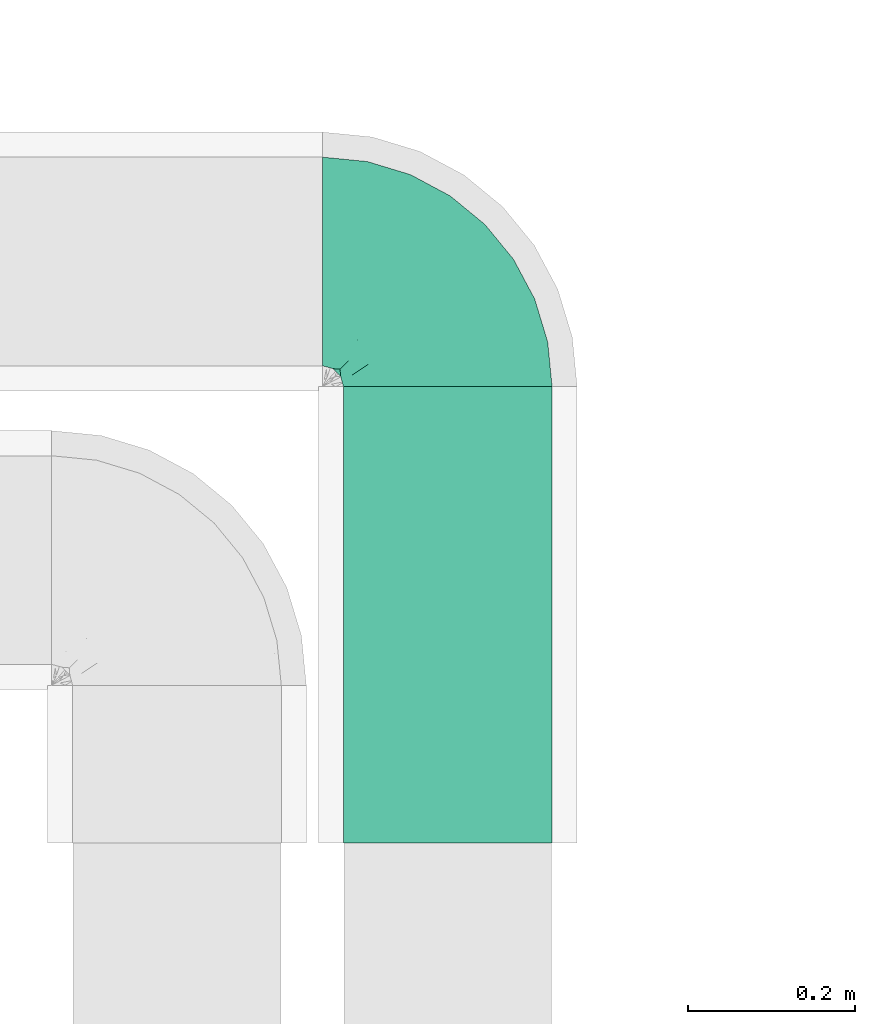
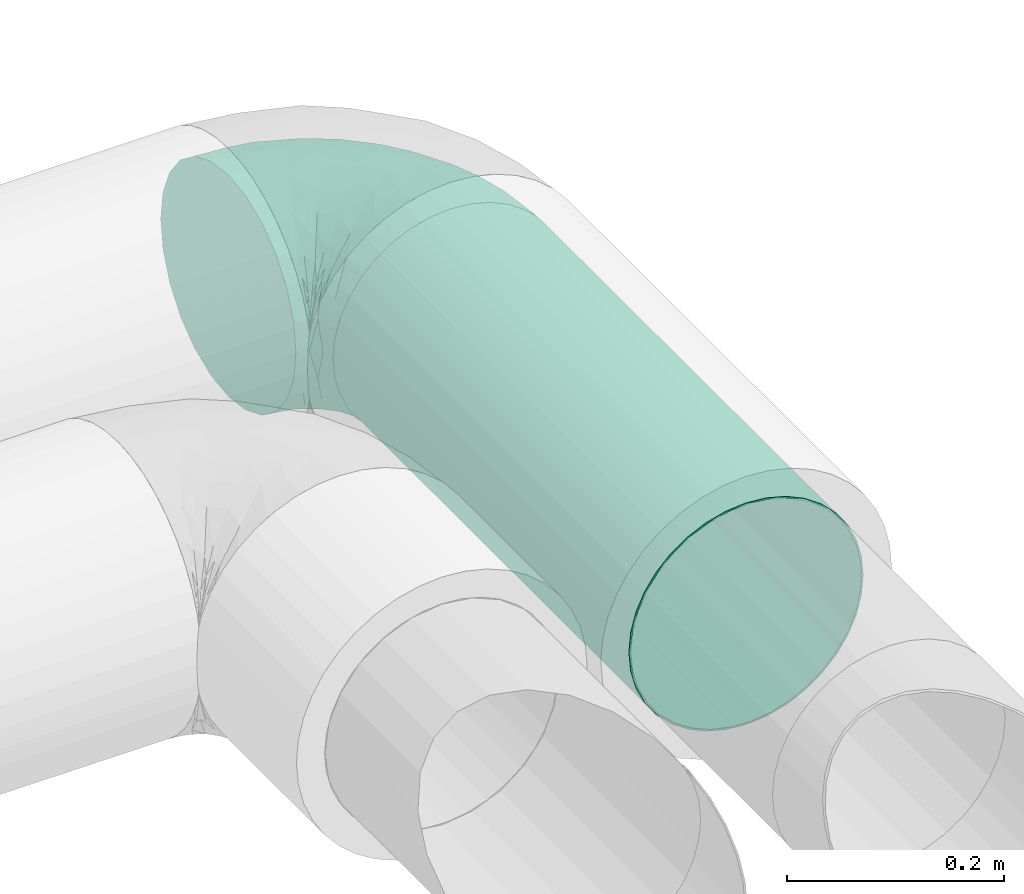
# One storey, part 13 of 36: 1 flow fitting, 1 flow segment.
"""IFC2X3 building model written with IfcOpenShell, lengths in millimetres."""

from ifc_helpers import new_model, entity, si_unit, converted_unit, derived_unit, direction, frame, origin_with_axes, origin_2d_with_axis, place, context, subcontext, project, spatial, hollow_circle, extrude, open_shell, surface_model, source, transform, mapped, type_object, element, save


model = new_model("IFC2X3")

# Units and contexts
model_context = context("Model", 3, precision=0.01, world=frame((0.0, 4.29681676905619e-09, 0.0)), true_north=direction((4.01073788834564e-13, 1.0)))
plan_context = context("Plan", 3, precision=0.01, world=frame((0.0, 4.29681676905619e-09, 0.0)), true_north=direction((4.01073788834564e-13, 1.0)))
body_context = subcontext(model_context, "Body", "Model", "MODEL_VIEW")
ifc_project = project(units=[converted_unit("PLANEANGLEUNIT", "DEGREE", entity("IfcPositiveLengthMeasure", 0.0174532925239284), si_unit("PLANEANGLEUNIT", "RADIAN"), dimensions=[0, 0, 0, 0, 0, 0, 0]), si_unit("AREAUNIT", "SQUARE_METRE"), si_unit("LENGTHUNIT", "METRE", prefix="MILLI"), si_unit("MASSUNIT", "GRAM", prefix="KILO"), si_unit("POWERUNIT", "WATT"), si_unit("PRESSUREUNIT", "PASCAL"), si_unit("FORCEUNIT", "NEWTON", prefix="KILO"), si_unit("ELECTRICCURRENTUNIT", "AMPERE"), si_unit("THERMODYNAMICTEMPERATUREUNIT", "DEGREE_CELSIUS"), si_unit("TIMEUNIT", "SECOND"), si_unit("VOLUMEUNIT", "CUBIC_METRE"), derived_unit("LINEARVELOCITYUNIT", [(si_unit("LENGTHUNIT", "METRE"), 1), (si_unit("TIMEUNIT", "SECOND"), -1)]), derived_unit("VOLUMETRICFLOWRATEUNIT", [(si_unit("VOLUMEUNIT", "CUBIC_METRE"), 1), (si_unit("TIMEUNIT", "SECOND"), -1)]), derived_unit("THERMALTRANSMITTANCEUNIT", [(si_unit("POWERUNIT", "WATT"), 1), (si_unit("THERMODYNAMICTEMPERATUREUNIT", "KELVIN"), -1), (si_unit("AREAUNIT", "SQUARE_METRE"), -1)])], contexts=[model_context, plan_context])

# Site, building, storey
site_placement = place(None, frame((0.0, -4.29681676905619e-09, 0.0), z_axis=(0.0, 0.0, 1.0), x_axis=(1.0, 0.0, 0.0)))
site = spatial("IfcSite", under=ifc_project, at=site_placement, CompositionType="ELEMENT")
building_placement = place(site_placement, frame((0.0, 4.29681676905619e-09, 0.0), z_axis=(0.0, 0.0, 1.0), x_axis=(1.0, 0.0, 0.0)))
building = spatial("IfcBuilding", under=site, at=building_placement, Name="mc-building", CompositionType="ELEMENT")
storey_placement = place(building_placement, frame((0.0, 0.0, 204000.0), z_axis=(0.0, 0.0, 1.0), x_axis=(1.0, 0.0, 0.0)))
storey = spatial("IfcBuildingStorey", under=building, at=storey_placement, Name="Nivå D", CompositionType="ELEMENT", Elevation=204000.0)

# Flow fitting
duct_fitting_type = type_object("IfcDuctFittingType", Name="magicirc_elbow_short_001", PredefinedType="BEND")
shared_shape_1 = source(origin_with_axes(), body_context, "Body", "SurfaceModel", [
    surface_model("IfcShellBasedSurfaceModel", [(-150.0, 0.0, -125.0), (-150.0, -32.35238, -120.74073), (-150.0, 32.35238, -120.74073), (-150.0, 62.5, -108.25318), (-150.0, 88.38835, -88.38835), (-150.0, 108.25318, -62.5), (-150.0, 120.74073, -32.35238), (-150.0, -62.5, -108.25318), (-150.0, -88.38835, -88.38835), (-150.0, -125.0, 0.0), (-150.0, -108.25318, -62.5), (-150.0, -120.74073, -32.35238), (-150.0, 125.0, 0.0), (-150.0, -120.74073, 32.35238), (-150.0, 120.74073, 32.35238), (-150.0, 108.25318, 62.5), (-150.0, 32.35238, 120.74073), (-150.0, 62.5, 108.25318), (-150.0, 88.38835, 88.38835), (-150.0, -88.38835, 88.38835), (-150.0, -108.25318, 62.5), (-150.0, -32.35238, 120.74073), (-150.0, 0.0, 125.0), (-150.0, -62.5, 108.25318), (-32.35238, 150.0, -120.74073), (88.38835, 150.0, -88.38835), (0.0, 150.0, -125.0), (-88.38835, 150.0, -88.38835), (-62.5, 150.0, -108.25318), (-108.25318, 150.0, -62.5), (-120.74073, 150.0, -32.35238), (88.38835, 150.0, 88.38835), (32.35238, 150.0, -120.74073), (62.5, 150.0, -108.25318), (120.74073, 150.0, -32.35238), (108.25318, 150.0, -62.5), (125.0, 150.0, 0.0), (-125.0, 150.0, 0.0), (-120.74073, 150.0, 32.35238), (-32.35238, 150.0, 120.74073), (-108.25318, 150.0, 62.5), (-88.38835, 150.0, 88.38835), (-62.5, 150.0, 108.25318), (120.74073, 150.0, 32.35238), (108.25318, 150.0, 62.5), (62.5, 150.0, 108.25318), (0.0, 150.0, 125.0), (32.35238, 150.0, 120.74073), (3.43621, -49.5686, 72.62973), (-18.36868, -48.37229, 88.70337), (-18.83692, -66.65046, 70.44253), (-111.90441, -117.21345, 35.28889), (-118.95041, -121.94188, 0.0), (25.86906, 108.55436, 121.17479), (-75.7772, -90.32158, 72.9261), (-74.87608, -74.03385, 90.43438), (-106.18274, -83.07991, 89.59712), (-96.35016, -119.71595, 0.0), (-46.47779, 70.62109, 123.46212), (-76.11794, 76.11794, 116.41901), (-69.40624, 48.8823, 123.2752), (-124.4932, -102.85852, 69.13391), (61.55426, -23.61809, 0.0), (70.72079, -10.51336, 22.73937), (52.73629, -32.74631, 22.58023), (-124.77817, -54.06971, 111.94259), (-90.65624, -57.4337, 106.30719), (32.14495, -52.26832, 26.33949), (-0.28194, -75.27927, 33.26458), (23.61809, -61.55426, 0.0), (-95.68999, 131.65378, 83.88297), (-69.77814, 120.80048, 106.99559), (-67.0959, -108.40643, 29.86559), (-70.55611, -111.89141, 0.0), (-44.76206, -104.06687, 0.0), (-59.72745, 94.86231, 116.91683), (-108.55438, -25.86905, 121.17479), (54.06971, 124.77816, 111.94259), (-27.02672, -92.24399, 28.66038), (-115.00313, 7.3209, 124.96177), (37.68395, -37.68396, 47.97943), (-29.53309, 7.28525, 119.4722), (-3.39232, -9.52602, 105.74117), (0.96712, 29.12319, 117.22512), (-136.08989, 114.55349, 55.66419), (-123.43379, 95.73566, 87.17875), (-119.07435, 119.07435, 65.82439), (-129.09162, 129.09162, 33.48663), (-137.5, 128.34936, 0.0), (-121.4114, 69.81738, 106.84783), (-150.0, 47.42619, 114.49695), (-128.63564, 33.72653, 120.89263), (-27.58141, -83.17169, 52.68646), (-47.99632, -78.87458, 74.22581), (-54.84475, -96.13379, 51.52422), (103.28598, 90.85645, 59.18699), (90.74371, 74.5558, 71.84785), (96.43496, 48.91625, 45.66343), (-41.1276, 38.26732, 124.85571), (102.85852, 124.4932, 69.13391), (83.07991, 106.18274, 89.59712), (-94.00852, 107.9804, 96.05098), (74.96021, 76.43193, 90.06036), (117.21345, 111.90441, 35.28889), (121.94188, 118.95041, 0.0), (-47.30293, -61.16044, 91.82798), (78.87458, 47.99631, 74.22581), (76.94281, 15.76685, 52.00246), (-101.88517, 84.02177, 104.66367), (110.18665, 71.48082, 28.20521), (111.89141, 70.55611, 0.0), (55.40218, 7.25052, 74.8198), (24.63024, -24.60151, 78.91029), (58.21029, -16.89277, 44.41752), (57.4337, 90.65623, 106.30718), (30.02154, 57.30162, 113.4468), (-128.34936, 137.5, 0.0), (-73.97464, 6.61086, 124.39367), (-33.52256, 127.66016, 120.99202), (-7.19958, 114.11429, 124.96953), (-18.42999, 93.20127, 124.82066), (14.9991, 81.71173, 121.69074), (-109.70554, 132.7303, 65.99174), (-81.52168, -16.35182, 121.37252), (-56.488, -29.68334, 113.41267), (55.20354, 44.94313, 95.60044), (-90.85645, -103.28598, 59.18699), (-26.43187, -29.68413, 104.83883), (-7.20961, 68.77767, 124.18226), (30.67747, 15.69438, 99.90432), (-47.42619, 150.0, 114.49695), (-107.88822, 38.92177, 121.04182), (-96.15013, 61.71268, 115.9946), (-96.31285, 19.15333, 124.70605), (14.59493, -56.28029, 51.4962), (104.06687, 44.76206, 0.0), (102.01943, 45.4582, 23.12647), (89.00824, 19.09141, 24.82271), (119.71595, 96.35016, 0.0), (-20.99012, -91.36051, 0.0), (78.65415, -2.78181, 0.0), (91.36051, 20.99012, 0.0), (2.78181, -78.65415, 0.0), (44.45436, -44.45436, 0.0), (-38.84807, 105.96939, 121.23578), (-120.80048, 69.77814, -106.99559), (54.06971, 124.77816, -111.94259), (-90.65624, -57.4337, -106.30719), (-124.77817, -54.06971, -111.94259), (-108.55438, -25.86906, -121.17479), (-18.36869, -48.37229, -88.70338), (-18.83692, -66.65046, -70.44253), (-47.30293, -61.16045, -91.82798), (-96.31285, 19.15333, -124.70605), (-73.97463, 6.61086, -124.39367), (-115.00313, 7.3209, -124.96177), (14.9991, 81.71175, -121.69074), (25.86906, 108.55438, -121.17479), (30.02154, 57.30164, -113.44681), (-129.09162, 129.09162, -33.48663), (-95.73566, 123.43379, -87.17875), (-84.02176, 101.88516, -104.66368), (-107.9804, 94.00852, -96.05098), (-0.28194, -75.27927, -33.26458), (-131.65378, 95.68999, -83.88297), (-132.7303, 109.70554, -65.99174), (-107.88822, 38.92177, -121.04182), (-128.63564, 33.72653, -120.89263), (-119.07435, 119.07435, -65.82439), (-111.90441, -117.21345, -35.28889), (-76.11794, 76.11793, -116.41901), (-69.69403, 48.67006, -123.27304), (-95.38125, 59.83873, -116.77822), (-106.18274, -83.07991, -89.59712), (-3.39231, -9.52602, -105.74117), (24.63023, -24.60151, -78.91029), (-54.84475, -96.13379, -51.52422), (-75.7772, -90.32158, -72.9261), (-47.99632, -78.87458, -74.22581), (-124.4932, -102.85852, -69.13391), (30.67749, 15.69438, -99.9043), (0.96713, 29.12319, -117.22511), (-69.81738, 121.4114, -106.84784), (-27.02672, -92.24399, -28.66038), (-67.0959, -108.40643, -29.86559), (78.87458, 47.99631, -74.22581), (96.43495, 48.9163, -45.66349), (76.94285, 15.76686, -52.00241), (37.68395, -37.68396, -47.97943), (58.21029, -16.89277, -44.41752), (52.73629, -32.74631, -22.58023), (-48.07357, 68.7261, -123.44788), (-114.55349, 136.08989, -55.66419), (117.21345, 111.90441, -35.28889), (-7.19958, 114.11428, -124.96953), (-27.58141, -83.17169, -52.68646), (-47.42619, 150.0, -114.49695), (-33.52256, 127.66015, -120.99202), (32.14495, -52.26832, -26.33949), (14.59493, -56.28029, -51.4962), (83.07991, 106.18274, -89.59712), (102.85852, 124.4932, -69.13391), (89.00829, 19.0915, -24.82265), (70.72079, -10.51336, -22.73937), (57.4337, 90.65623, -106.30719), (110.18664, 71.4808, -28.20522), (102.0194, 45.45816, -23.12649), (-90.85645, -103.28598, -59.18699), (90.01217, 76.65037, -73.68876), (73.67235, 74.27652, -90.57836), (-29.53307, 7.28526, -119.4722), (-56.488, -29.68334, -113.41267), (-74.87608, -74.03385, -90.43438), (-81.52167, -16.35182, -121.37252), (-26.43187, -29.68413, -104.83883), (103.28598, 90.85645, -59.18699), (-18.42999, 93.20126, -124.82066), (-38.84807, 105.96939, -121.23578), (55.20355, 44.94317, -95.60045), (-150.0, 47.42619, -114.49695), (55.40223, 7.25057, -74.81978), (-61.71268, 96.15012, -115.9946), (-41.12759, 38.26731, -124.85571), (3.43621, -49.56858, -72.62973), (-7.2096, 68.77766, -124.18226)], [open_shell([[[0, 1, 2]], [[3, 2, 4]], [[1, 5, 2]], [[4, 2, 5]], [[5, 1, 6]], [[7, 8, 1]], [[9, 1, 8]], [[10, 11, 8]], [[9, 8, 11]], [[9, 6, 1]], [[9, 12, 6]], [[12, 13, 14]], [[15, 14, 16]], [[16, 17, 18]], [[15, 16, 18]], [[16, 14, 19]], [[20, 19, 13]], [[19, 14, 13]], [[21, 22, 23]], [[19, 23, 22]], [[19, 22, 16]], [[9, 13, 12]], [[24, 25, 26]], [[27, 24, 28]], [[29, 30, 24]], [[29, 24, 27]], [[24, 31, 25]], [[32, 25, 33]], [[32, 26, 25]], [[25, 34, 35]], [[34, 25, 36]], [[25, 31, 36]], [[24, 30, 37]], [[38, 31, 37]], [[39, 38, 40]], [[41, 42, 39]], [[41, 39, 40]], [[31, 38, 39]], [[43, 31, 44]], [[36, 31, 43]], [[45, 46, 47]], [[46, 45, 31]], [[39, 46, 31]], [[31, 24, 37]], [[48, 49, 50]], [[51, 13, 52]], [[53, 47, 46]], [[54, 55, 56]], [[52, 57, 51]], [[58, 59, 60]], [[20, 61, 19]], [[62, 63, 64]], [[65, 56, 66]], [[67, 68, 69]], [[41, 70, 71]], [[72, 73, 74]], [[59, 58, 75]], [[21, 76, 22]], [[77, 45, 47]], [[23, 19, 56]], [[72, 74, 78]], [[79, 16, 22]], [[76, 21, 65]], [[80, 67, 64]], [[81, 82, 83]], [[84, 85, 86]], [[87, 12, 14]], [[12, 87, 88]], [[18, 17, 89]], [[51, 20, 13]], [[18, 89, 85]], [[17, 90, 91]], [[84, 14, 15]], [[91, 90, 16]], [[92, 93, 94]], [[40, 70, 41]], [[95, 96, 97]], [[83, 98, 81]], [[44, 31, 99]], [[100, 31, 45]], [[86, 85, 101]], [[102, 96, 100]], [[103, 104, 43]], [[66, 55, 105]], [[77, 100, 45]], [[103, 43, 44]], [[97, 106, 107]], [[85, 15, 18]], [[108, 85, 89]], [[85, 84, 15]], [[103, 109, 110]], [[111, 112, 113]], [[114, 53, 115]], [[88, 87, 116]], [[60, 117, 98]], [[116, 87, 37]], [[85, 108, 101]], [[38, 37, 87]], [[71, 118, 42]], [[119, 120, 121]], [[122, 38, 87]], [[70, 122, 101]], [[123, 76, 124]], [[114, 115, 125]], [[119, 53, 46]], [[42, 41, 71]], [[77, 53, 114]], [[72, 78, 94]], [[54, 126, 94]], [[21, 23, 65]], [[124, 76, 66]], [[61, 56, 19]], [[76, 123, 79]], [[93, 105, 55]], [[124, 127, 81]], [[102, 100, 114]], [[99, 100, 95]], [[46, 39, 119]], [[115, 121, 128]], [[128, 83, 115]], [[115, 83, 129]], [[75, 101, 59]], [[118, 39, 130]], [[106, 111, 107]], [[125, 111, 106]], [[131, 89, 17]], [[108, 132, 59]], [[118, 119, 39]], [[119, 118, 120]], [[51, 57, 73]], [[61, 51, 126]], [[99, 103, 44]], [[109, 95, 97]], [[76, 79, 22]], [[133, 79, 117]], [[83, 128, 98]], [[129, 83, 82]], [[128, 120, 58]], [[59, 132, 60]], [[129, 82, 112]], [[125, 115, 129]], [[49, 112, 82]], [[80, 134, 67]], [[127, 49, 82]], [[93, 92, 50]], [[111, 125, 129]], [[125, 106, 102]], [[112, 111, 129]], [[111, 113, 107]], [[98, 117, 81]], [[124, 81, 117]], [[63, 113, 64]], [[135, 109, 136]], [[137, 97, 107]], [[97, 136, 109]], [[110, 138, 103]], [[103, 95, 109]], [[78, 74, 139]], [[73, 72, 51]], [[51, 72, 126]], [[68, 134, 50]], [[72, 94, 126]], [[92, 94, 78]], [[54, 94, 93]], [[63, 107, 113]], [[137, 140, 141]], [[68, 92, 78]], [[50, 49, 105]], [[78, 142, 68]], [[68, 142, 69]], [[67, 69, 143]], [[64, 67, 143]], [[68, 67, 134]], [[68, 50, 92]], [[48, 50, 134]], [[80, 48, 134]], [[112, 49, 48]], [[62, 140, 63]], [[80, 64, 113]], [[140, 137, 63]], [[107, 63, 137]], [[64, 143, 62]], [[113, 112, 80]], [[48, 80, 112]], [[55, 54, 93]], [[56, 126, 54]], [[93, 50, 105]], [[56, 55, 66]], [[127, 105, 49]], [[66, 105, 124]], [[132, 108, 89]], [[101, 108, 59]], [[89, 131, 132]], [[60, 98, 58]], [[132, 131, 60]], [[60, 131, 133]], [[128, 58, 98]], [[75, 58, 144]], [[144, 71, 75]], [[101, 75, 71]], [[122, 70, 40]], [[136, 141, 135]], [[71, 70, 101]], [[38, 122, 40]], [[101, 122, 86]], [[84, 87, 14]], [[122, 87, 86]], [[13, 9, 52]], [[104, 103, 138]], [[104, 36, 43]], [[87, 84, 86]], [[51, 61, 20]], [[56, 61, 126]], [[56, 65, 23]], [[76, 65, 66]], [[100, 99, 31]], [[103, 99, 95]], [[53, 77, 47]], [[100, 77, 114]], [[118, 71, 144]], [[120, 118, 144]], [[42, 118, 130]], [[79, 133, 91]], [[79, 91, 16]], [[17, 91, 131]], [[124, 117, 123]], [[79, 123, 117]], [[125, 102, 114]], [[96, 102, 106]], [[97, 96, 106]], [[100, 96, 95]], [[115, 53, 121]], [[119, 121, 53]], [[58, 120, 144]], [[121, 120, 128]], [[60, 133, 117]], [[91, 133, 131]], [[81, 127, 82]], [[105, 127, 124]], [[97, 137, 136]], [[141, 136, 137]], [[109, 135, 110]], [[139, 142, 78]], [[4, 145, 3]], [[32, 33, 146]], [[147, 148, 149]], [[150, 151, 152]], [[153, 154, 155]], [[156, 157, 158]], [[88, 159, 12]], [[160, 161, 162]], [[159, 6, 12]], [[142, 163, 69]], [[162, 164, 165]], [[3, 166, 167]], [[168, 160, 162]], [[159, 165, 6]], [[10, 169, 11]], [[169, 52, 11]], [[170, 171, 172]], [[7, 148, 173]], [[174, 175, 150]], [[176, 177, 178]], [[149, 1, 0]], [[34, 36, 104]], [[10, 8, 179]], [[180, 174, 181]], [[161, 160, 182]], [[183, 74, 184]], [[8, 7, 173]], [[185, 186, 187]], [[188, 189, 190]], [[159, 88, 116]], [[155, 149, 0]], [[37, 30, 159]], [[171, 170, 191]], [[192, 30, 29]], [[193, 35, 34]], [[4, 164, 145]], [[192, 160, 168]], [[24, 26, 194]], [[148, 7, 1]], [[155, 0, 2]], [[157, 194, 26]], [[163, 183, 195]], [[196, 24, 197]], [[198, 163, 199]], [[182, 160, 27]], [[160, 29, 27]], [[200, 33, 25]], [[35, 201, 25]], [[187, 186, 202]], [[203, 62, 190]], [[32, 146, 157]], [[200, 204, 146]], [[205, 135, 206]], [[184, 169, 207]], [[104, 138, 193]], [[34, 104, 193]], [[27, 28, 182]], [[183, 142, 139]], [[32, 157, 26]], [[200, 208, 209]], [[210, 181, 174]], [[147, 149, 211]], [[177, 212, 178]], [[37, 159, 116]], [[179, 173, 207]], [[5, 164, 4]], [[211, 213, 154]], [[210, 211, 154]], [[214, 174, 150]], [[201, 200, 25]], [[208, 200, 215]], [[158, 157, 204]], [[216, 217, 197]], [[204, 209, 218]], [[172, 162, 170]], [[167, 2, 219]], [[180, 175, 174]], [[187, 189, 220]], [[182, 28, 197]], [[161, 221, 170]], [[194, 157, 156]], [[28, 196, 197]], [[179, 169, 10]], [[169, 73, 57]], [[193, 110, 205]], [[201, 193, 215]], [[2, 167, 155]], [[155, 154, 213]], [[180, 181, 158]], [[181, 210, 222]], [[154, 153, 171]], [[170, 221, 191]], [[158, 218, 180]], [[180, 218, 220]], [[175, 180, 220]], [[195, 178, 151]], [[151, 223, 199]], [[212, 152, 178]], [[204, 218, 158]], [[185, 187, 220]], [[185, 220, 218]], [[175, 220, 189]], [[210, 174, 214]], [[154, 222, 210]], [[208, 186, 185]], [[187, 202, 203]], [[205, 186, 215]], [[206, 141, 202]], [[215, 193, 205]], [[169, 184, 73]], [[74, 73, 184]], [[184, 176, 183]], [[176, 184, 207]], [[183, 176, 195]], [[177, 176, 207]], [[195, 176, 178]], [[206, 186, 205]], [[207, 173, 177]], [[178, 152, 151]], [[195, 151, 163]], [[69, 163, 198]], [[142, 183, 163]], [[69, 198, 143]], [[188, 198, 199]], [[190, 143, 198]], [[223, 151, 150]], [[163, 151, 199]], [[150, 175, 223]], [[188, 223, 175]], [[223, 188, 199]], [[175, 189, 188]], [[188, 190, 198]], [[190, 189, 203]], [[187, 203, 189]], [[202, 140, 203]], [[62, 203, 140]], [[62, 143, 190]], [[212, 173, 147]], [[173, 212, 177]], [[147, 211, 152]], [[147, 152, 212]], [[214, 152, 211]], [[221, 161, 182]], [[162, 161, 170]], [[182, 217, 221]], [[191, 222, 171]], [[221, 217, 191]], [[191, 217, 216]], [[154, 171, 222]], [[172, 166, 145]], [[166, 172, 171]], [[162, 172, 145]], [[165, 164, 5]], [[141, 140, 202]], [[145, 164, 162]], [[6, 165, 5]], [[162, 165, 168]], [[192, 159, 30]], [[165, 159, 168]], [[52, 169, 57]], [[52, 9, 11]], [[160, 192, 29]], [[159, 192, 168]], [[173, 179, 8]], [[169, 179, 207]], [[149, 148, 1]], [[173, 148, 147]], [[193, 201, 35]], [[200, 201, 215]], [[200, 146, 33]], [[157, 146, 204]], [[217, 182, 197]], [[24, 194, 197]], [[216, 197, 194]], [[166, 3, 145]], [[3, 167, 219]], [[167, 166, 153]], [[211, 149, 213]], [[155, 213, 149]], [[186, 208, 215]], [[209, 208, 185]], [[218, 209, 185]], [[200, 209, 204]], [[156, 216, 194]], [[167, 153, 155]], [[171, 153, 166]], [[152, 214, 150]], [[210, 214, 211]], [[141, 206, 135]], [[202, 186, 206]], [[110, 193, 138]], [[110, 135, 205]], [[74, 183, 139]], [[191, 224, 222]], [[181, 222, 224]], [[181, 224, 158]], [[158, 224, 156]], [[156, 224, 216]], [[191, 216, 224]]])]),
])
flow_fitting_placement = place(storey_placement, frame((516832.18938, 415452.77189, 2614.0), z_axis=(0.0, 0.0, 1.0), x_axis=(0.0, 1.0, 0.0)))
element("IfcFlowFitting", 1, at=flow_fitting_placement, inside=storey, type_object=duct_fitting_type, Name="magicirc_elbow_short_001", context=body_context, shape_type="MappedRepresentation", body=[
    mapped(shared_shape_1, transform((0.0, 0.0, 0.0), scale=1.0)),
])

# Flow segment
duct_segment_type = type_object("IfcDuctSegmentType", Name="KK002T - Spiro kanaler, Forsinket stål, korte bend", PredefinedType="RIGIDSEGMENT")
shared_shape_2 = source(origin_with_axes(), body_context, "Body", "SweptSolid", [
    extrude(hollow_circle(Radius=125.0, WallThickness=2.0, at=origin_2d_with_axis()), frame((0.0, 0.0, 0.0), z_axis=(1.0, 0.0, 0.0), x_axis=(0.0, 1.0, 0.0)), (0.0, 0.0, 1.0), 546.5),
])
flow_segment_placement = place(storey_placement, frame((516832.18938, 414756.25, 2614.0), z_axis=(0.0, 0.0, 1.0), x_axis=(0.0, 1.0, 0.0)))
element("IfcFlowSegment", 2, at=flow_segment_placement, inside=storey, type_object=duct_segment_type, Name="KK002T - Spiro kanaler, Forsinket stål, korte bend", context=body_context, shape_type="MappedRepresentation", body=[
    mapped(shared_shape_2, transform((0.0, 0.0, 0.0), scale=1.0)),
])

save(model, "model.ifc")
